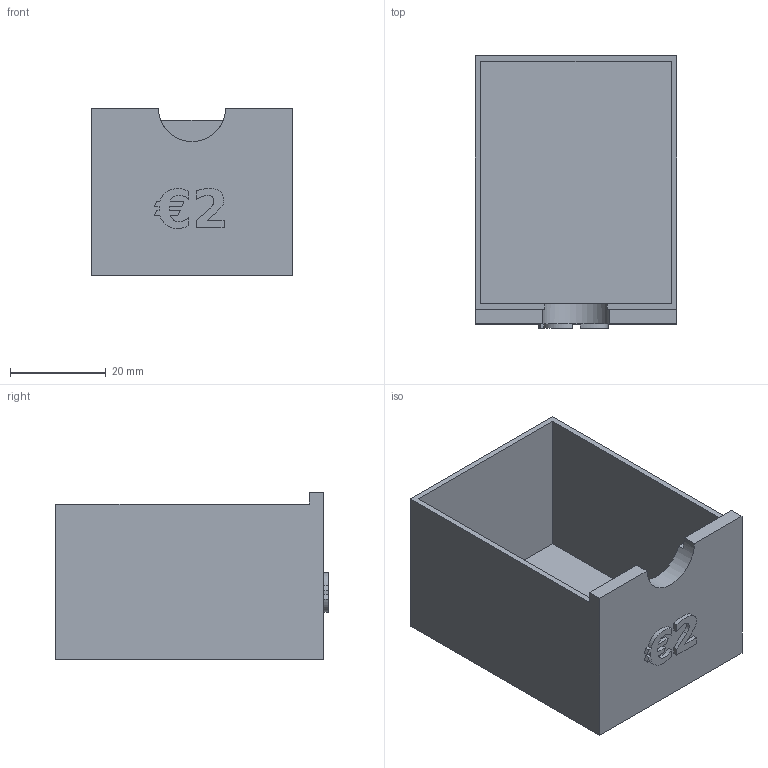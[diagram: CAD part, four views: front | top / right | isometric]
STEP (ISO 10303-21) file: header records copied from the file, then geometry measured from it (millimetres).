
FILE_DESCRIPTION(('Open CASCADE Model'),'2;1');
FILE_NAME('Open CASCADE Shape Model','2026-10-20T15:47:44',('Author'),( 'Open CASCADE'),'Open CASCADE STEP processor 8.0','build123d', 'Unknown');
FILE_SCHEMA(('AUTOMOTIVE_DESIGN { 1 0 10303 214 1 1 1 1 }'));
Length unit declared in the file: millimetre
Products named in the file (2): =>[0:1:1:2]; COMPOUND
Assembly tree (1 placements, depth 2):
  =>[0:1:1:2]
    COMPOUND
Bounding box: 42.06 x 56.84 x 35 mm (x, y, z)
Volume: 13814.8 mm3; surface area: 16895.9 mm2
Topology: 1 solids, 1 shells, 47 faces, 129 edges, 86 vertices
Faces by surface type: plane 38, extrusion 8, cylinder 1
Entity records: 3324 total; most frequent: CARTESIAN_POINT 782, DIRECTION 429, VECTOR 339, LINE 331, ORIENTED_EDGE 258, PCURVE 258, DEFINITIONAL_REPRESENTATION 258, EDGE_CURVE 129
